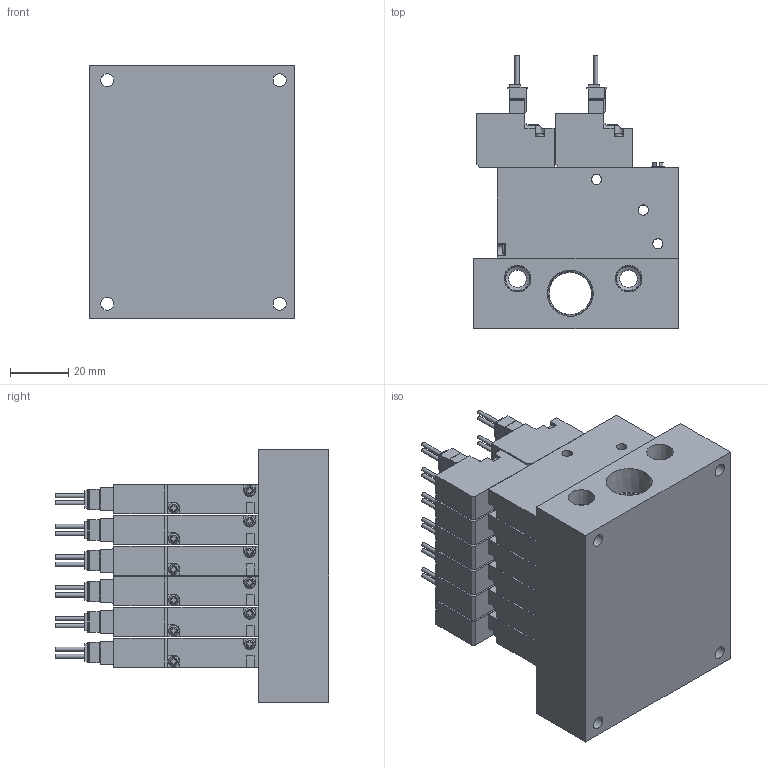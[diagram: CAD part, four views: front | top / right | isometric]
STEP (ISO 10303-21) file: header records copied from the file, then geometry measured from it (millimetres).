
FILE_DESCRIPTION(('STEP AP203'),'1');
FILE_NAME('BMPV42MZZ5A(B)606.stp','2025-04-30T05:23:39',(' '),(' '),'Spatial InterOp 3D',' ',' ');
FILE_SCHEMA(('CONFIG_CONTROL_DESIGN'));
Length unit declared in the file: millimetre
Products named in the file (7): BMPV42MZZ5A(B)606; VACUUM VALVE FUNCTION MPV42-A; UNIT-MPV42; MC4-M6
Assembly tree (19 placements, depth 2):
  BMPV42MZZ5A(B)606
    VACUUM VALVE FUNCTION MPV42-A
    VACUUM VALVE FUNCTION MPV42-A
    UNIT-MPV42
    MC4-M6
    UNIT-MPV42  x5
    VACUUM VALVE FUNCTION MPV42-A  x10
Bounding box: 70 x 93.45 x 86.5 mm (x, y, z)
Volume: 292038.5 mm3; surface area: 92452.7 mm2
Topology: 19 solids, 19 shells, 1599 faces, 4306 edges, 2865 vertices
Faces by surface type: plane 1290, cylinder 251, cone 34, sphere 12, torus 12
Full cylindrical faces by diameter (mm): 1.4 x24, 1.8 x6, 2.2 x12, 3 x24, 3.5 x42, 4.134 x6, 4.5 x4, 5 x6, 6 x2, 8.2 x4, 14.5 x1
Entity records: 14132 total; most frequent: CARTESIAN_POINT 2584, DIRECTION 2270, ORIENTED_EDGE 2216, EDGE_CURVE 1108, LINE 866, VECTOR 866, VERTEX_POINT 776, AXIS2_PLACEMENT_3D 702
